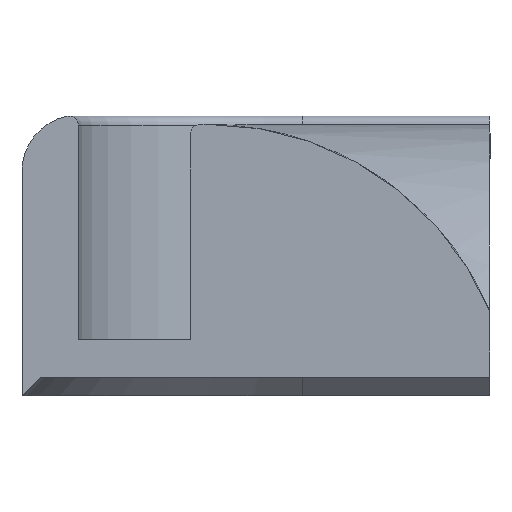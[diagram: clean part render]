
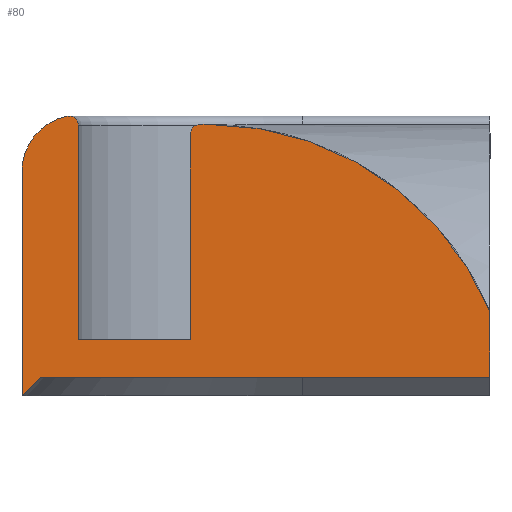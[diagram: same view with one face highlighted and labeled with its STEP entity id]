
A CAD part, front view. The second image highlights one B-rep face of the part: STEP entity #80.
In plain terms, the highlighted planar face has unit normal (0, -1, 0).
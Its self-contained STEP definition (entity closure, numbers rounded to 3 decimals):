
#4 = CARTESIAN_POINT ( 'NONE',  ( -3., -12.5, 13.5 ) ) ;
#9 = EDGE_CURVE ( 'NONE', #490, #1009, #1023, .T. ) ;
#19 = EDGE_CURVE ( 'NONE', #1107, #763, #1406, .T. ) ;
#20 = PLANE ( 'NONE',  #184 ) ;
#34 = CARTESIAN_POINT ( 'NONE',  ( 12.5, -12.5, 3.5 ) ) ;
#35 = DIRECTION ( 'NONE',  ( 0., 0., -1. ) ) ;
#40 = CARTESIAN_POINT ( 'NONE',  ( -12.5, -12.5, 11. ) ) ;
#55 = DIRECTION ( 'NONE',  ( 0., 0., -1. ) ) ;
#73 = EDGE_CURVE ( 'NONE', #1763, #375, #1695, .T. ) ;
#78 = LINE ( 'NONE', #517, #435 ) ;
#80 = ADVANCED_FACE ( 'NONE', ( #115 ), #20, .F. ) ;
#115 = FACE_OUTER_BOUND ( 'NONE', #1110, .T. ) ;
#119 = ORIENTED_EDGE ( 'NONE', *, *, #9, .T. ) ;
#150 = DIRECTION ( 'NONE',  ( 0., -1., 0. ) ) ;
#180 = CARTESIAN_POINT ( 'NONE',  ( 12.5, -12.5, 2. ) ) ;
#184 = AXIS2_PLACEMENT_3D ( 'NONE', #180, #954, #1931 ) ;
#186 = DIRECTION ( 'NONE',  ( 0., -1., 0. ) ) ;
#208 = VECTOR ( 'NONE', #1772, 1000. ) ;
#220 = LINE ( 'NONE', #1275, #1375 ) ;
#225 = ORIENTED_EDGE ( 'NONE', *, *, #73, .F. ) ;
#243 = DIRECTION ( 'NONE',  ( 1., 0., 0. ) ) ;
#287 = DIRECTION ( 'NONE',  ( 1., 0., 0. ) ) ;
#306 = CARTESIAN_POINT ( 'NONE',  ( 12.5, -12.5, 2. ) ) ;
#334 = LINE ( 'NONE', #1702, #1860 ) ;
#340 = CARTESIAN_POINT ( 'NONE',  ( -12.5, -12.5, -1. ) ) ;
#351 = ORIENTED_EDGE ( 'NONE', *, *, #929, .T. ) ;
#354 = DIRECTION ( 'NONE',  ( 1., 0., 0. ) ) ;
#375 = VERTEX_POINT ( 'NONE', #1092 ) ;
#403 = ORIENTED_EDGE ( 'NONE', *, *, #716, .T. ) ;
#407 = ORIENTED_EDGE ( 'NONE', *, *, #1895, .T. ) ;
#420 = CARTESIAN_POINT ( 'NONE',  ( -3.5, -12.5, 13. ) ) ;
#435 = VECTOR ( 'NONE', #243, 1000. ) ;
#455 = CARTESIAN_POINT ( 'NONE',  ( -3.5, -12.5, 2. ) ) ;
#457 = ORIENTED_EDGE ( 'NONE', *, *, #19, .T. ) ;
#467 = CARTESIAN_POINT ( 'NONE',  ( -11.5, -12.5, 0. ) ) ;
#490 = VERTEX_POINT ( 'NONE', #1881 ) ;
#513 = CARTESIAN_POINT ( 'NONE',  ( 12.5, -12.5, 0. ) ) ;
#517 = CARTESIAN_POINT ( 'NONE',  ( 12.5, -12.5, 2. ) ) ;
#615 = CIRCLE ( 'NONE', #1160, 0.5 ) ;
#625 = CIRCLE ( 'NONE', #809, 3. ) ;
#654 = CARTESIAN_POINT ( 'NONE',  ( -10., -12.5, 13.449 ) ) ;
#661 = ORIENTED_EDGE ( 'NONE', *, *, #1708, .T. ) ;
#716 = EDGE_CURVE ( 'NONE', #763, #1039, #615, .T. ) ;
#763 = VERTEX_POINT ( 'NONE', #4 ) ;
#766 = DIRECTION ( 'NONE',  ( -1., 0., 0. ) ) ;
#801 = CARTESIAN_POINT ( 'NONE',  ( -10.1, -12.5, 13.939 ) ) ;
#809 = AXIS2_PLACEMENT_3D ( 'NONE', #1331, #1318, #1312 ) ;
#845 = VERTEX_POINT ( 'NONE', #40 ) ;
#929 = EDGE_CURVE ( 'NONE', #1009, #845, #625, .T. ) ;
#938 = VECTOR ( 'NONE', #1111, 1000. ) ;
#954 = DIRECTION ( 'NONE',  ( 0., 1., 0. ) ) ;
#971 = EDGE_CURVE ( 'NONE', #845, #1627, #220, .T. ) ;
#998 = VECTOR ( 'NONE', #354, 1000. ) ;
#1009 = VERTEX_POINT ( 'NONE', #801 ) ;
#1023 = CIRCLE ( 'NONE', #1521, 0.5 ) ;
#1025 = CARTESIAN_POINT ( 'NONE',  ( -2.5, -12.5, 13.5 ) ) ;
#1027 = ORIENTED_EDGE ( 'NONE', *, *, #1119, .T. ) ;
#1030 = EDGE_CURVE ( 'NONE', #1340, #1469, #78, .T. ) ;
#1039 = VERTEX_POINT ( 'NONE', #420 ) ;
#1048 = CARTESIAN_POINT ( 'NONE',  ( -3.5, -12.5, 13.5 ) ) ;
#1072 = EDGE_CURVE ( 'NONE', #1340, #490, #1909, .T. ) ;
#1092 = CARTESIAN_POINT ( 'NONE',  ( 12.5, -12.5, 0. ) ) ;
#1100 = CARTESIAN_POINT ( 'NONE',  ( -12.5, -12.5, -1. ) ) ;
#1107 = VERTEX_POINT ( 'NONE', #1025 ) ;
#1110 = EDGE_LOOP ( 'NONE', ( #457, #403, #1027, #1373, #1328, #119, #351, #1115, #661, #1599, #225, #407 ) ) ;
#1111 = DIRECTION ( 'NONE',  ( 0.707, 0., 0.707 ) ) ;
#1115 = ORIENTED_EDGE ( 'NONE', *, *, #971, .T. ) ;
#1119 = EDGE_CURVE ( 'NONE', #1039, #1469, #334, .T. ) ;
#1122 = DIRECTION ( 'NONE',  ( 0., 0., 1. ) ) ;
#1160 = AXIS2_PLACEMENT_3D ( 'NONE', #1182, #1196, #1166 ) ;
#1166 = DIRECTION ( 'NONE',  ( -1., 0., 0. ) ) ;
#1182 = CARTESIAN_POINT ( 'NONE',  ( -3., -12.5, 13. ) ) ;
#1196 = DIRECTION ( 'NONE',  ( 0., -1., 0. ) ) ;
#1275 = CARTESIAN_POINT ( 'NONE',  ( -12.5, -12.5, 2. ) ) ;
#1312 = DIRECTION ( 'NONE',  ( 1., 0., 0. ) ) ;
#1318 = DIRECTION ( 'NONE',  ( 0., -1., 0. ) ) ;
#1328 = ORIENTED_EDGE ( 'NONE', *, *, #1072, .T. ) ;
#1331 = CARTESIAN_POINT ( 'NONE',  ( -9.5, -12.5, 11. ) ) ;
#1334 = LINE ( 'NONE', #1100, #938 ) ;
#1340 = VERTEX_POINT ( 'NONE', #1792 ) ;
#1373 = ORIENTED_EDGE ( 'NONE', *, *, #1030, .F. ) ;
#1375 = VECTOR ( 'NONE', #1539, 1000. ) ;
#1406 = LINE ( 'NONE', #1048, #208 ) ;
#1449 = CARTESIAN_POINT ( 'NONE',  ( -9.5, -12.5, 2. ) ) ;
#1469 = VERTEX_POINT ( 'NONE', #455 ) ;
#1494 = VERTEX_POINT ( 'NONE', #467 ) ;
#1520 = VECTOR ( 'NONE', #1122, 1000. ) ;
#1521 = AXIS2_PLACEMENT_3D ( 'NONE', #654, #186, #766 ) ;
#1534 = CARTESIAN_POINT ( 'NONE',  ( -2.5, -12.5, -2.75 ) ) ;
#1539 = DIRECTION ( 'NONE',  ( 0., 0., -1. ) ) ;
#1586 = AXIS2_PLACEMENT_3D ( 'NONE', #1534, #150, #287 ) ;
#1599 = ORIENTED_EDGE ( 'NONE', *, *, #1798, .T. ) ;
#1627 = VERTEX_POINT ( 'NONE', #340 ) ;
#1652 = VECTOR ( 'NONE', #35, 1000. ) ;
#1695 = LINE ( 'NONE', #306, #1652 ) ;
#1702 = CARTESIAN_POINT ( 'NONE',  ( -3.5, -12.5, 2. ) ) ;
#1708 = EDGE_CURVE ( 'NONE', #1627, #1494, #1334, .T. ) ;
#1717 = LINE ( 'NONE', #513, #998 ) ;
#1763 = VERTEX_POINT ( 'NONE', #34 ) ;
#1772 = DIRECTION ( 'NONE',  ( -1., 0., 0. ) ) ;
#1792 = CARTESIAN_POINT ( 'NONE',  ( -9.5, -12.5, 2. ) ) ;
#1798 = EDGE_CURVE ( 'NONE', #1494, #375, #1717, .T. ) ;
#1860 = VECTOR ( 'NONE', #55, 1000. ) ;
#1881 = CARTESIAN_POINT ( 'NONE',  ( -9.5, -12.5, 13.449 ) ) ;
#1895 = EDGE_CURVE ( 'NONE', #1763, #1107, #1919, .T. ) ;
#1909 = LINE ( 'NONE', #1449, #1520 ) ;
#1919 = CIRCLE ( 'NONE', #1586, 16.25 ) ;
#1931 = DIRECTION ( 'NONE',  ( -1., 0., 0. ) ) ;
